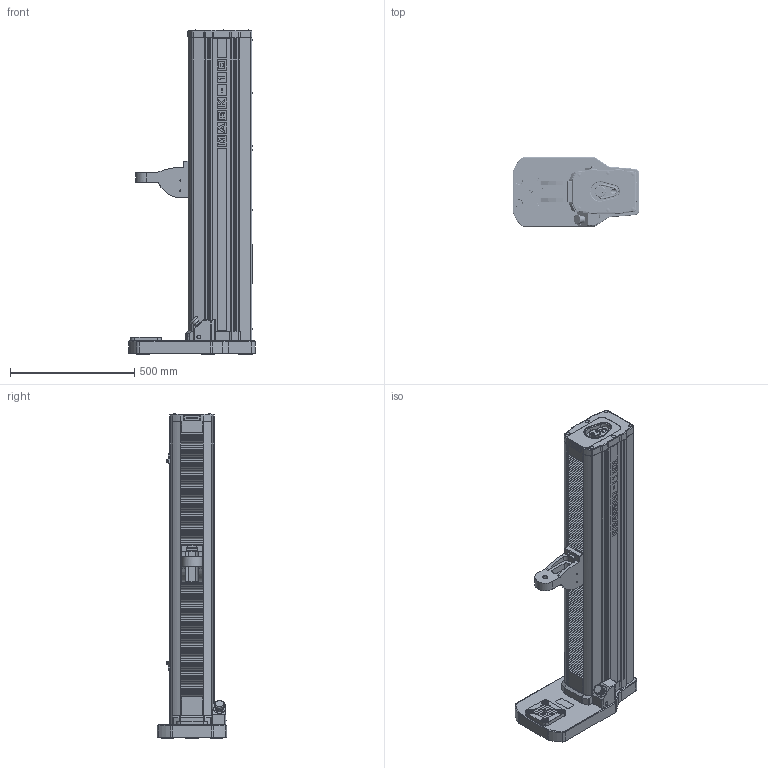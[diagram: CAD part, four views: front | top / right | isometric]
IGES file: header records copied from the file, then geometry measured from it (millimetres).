
Global section: file name: F1505_IM; native system: Autodesk RealDWG; preprocessor: Autodesk Translation Framework DWG producer (atf_dwg_producer); organization: unknown; date: 20210205.152745; units: inch
Bounding box: 508 x 278.99 x 1305.56 mm (x, y, z)
Volume: 58962970 mm3; surface area: 2471485.6 mm2
Topology: 6 solids, 11 shells, 8910 faces, 26080 edges, 18026 vertices
Faces by surface type: bspline 8910
